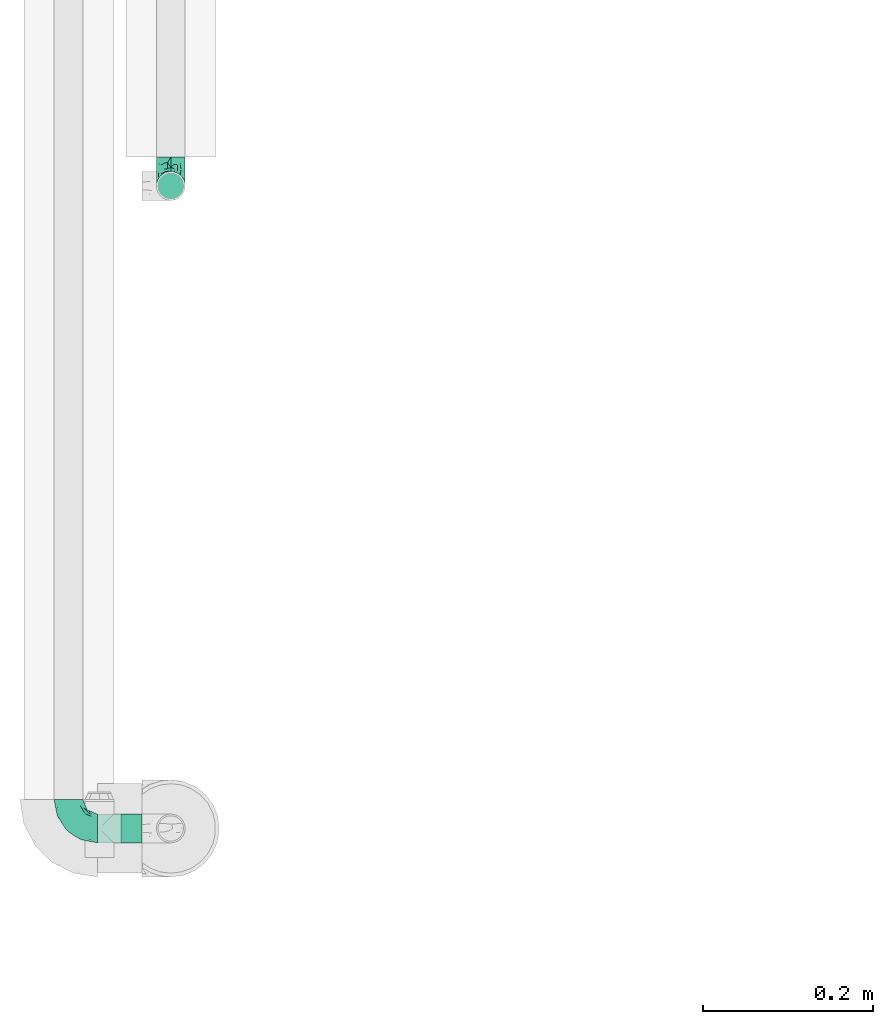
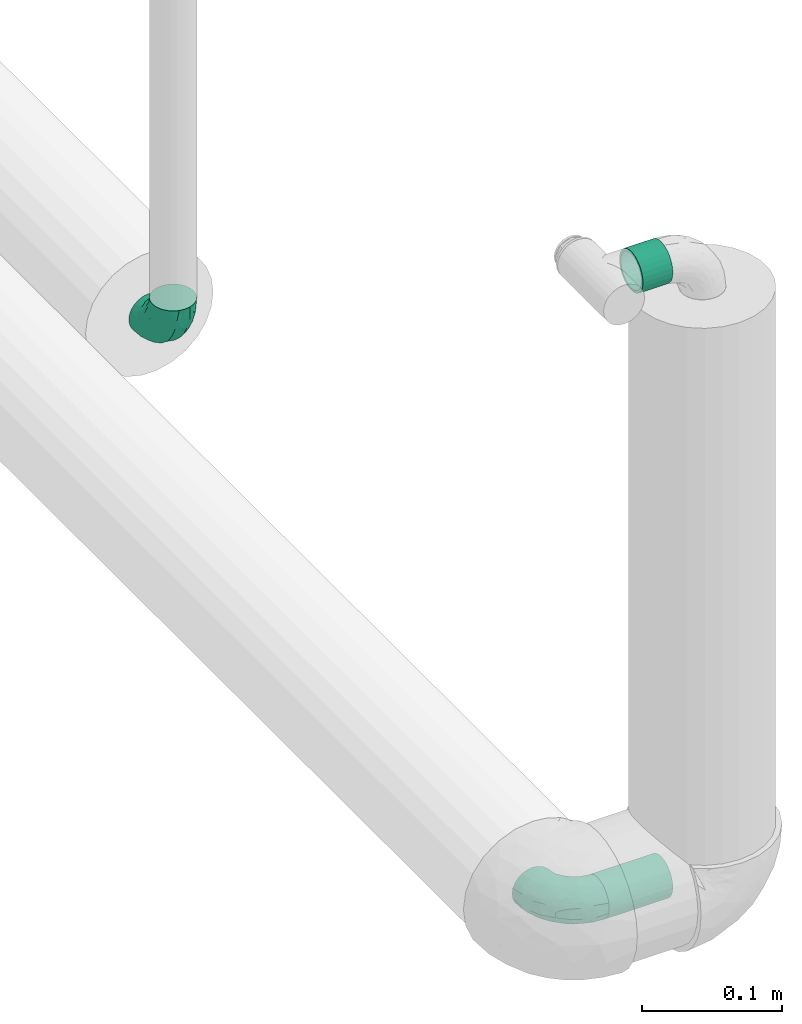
# One storey, part 9 of 17: 2 flow fittings, 2 flow segments.
"""IFC2X3 building model written with IfcOpenShell, lengths in millimetres."""

from ifc_helpers import new_model, entity, si_unit, converted_unit, derived_unit, direction, frame, origin_with_axes, origin_2d_with_axis, place, context, subcontext, project, spatial, hollow_circle, extrude, open_shell, surface_model, source, transform, mapped, type_object, element, save


model = new_model("IFC2X3")

# Units and contexts
model_context = context("Model", 3, precision=0.01, world=frame((0.0, 4.29681676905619e-09, 0.0)), true_north=direction((4.01073788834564e-13, 1.0)))
plan_context = context("Plan", 3, precision=0.01, world=frame((0.0, 4.29681676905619e-09, 0.0)), true_north=direction((4.01073788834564e-13, 1.0)))
body_context = subcontext(model_context, "Body", "Model", "MODEL_VIEW")
ifc_project = project(units=[converted_unit("PLANEANGLEUNIT", "DEGREE", entity("IfcPositiveLengthMeasure", 0.0174532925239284), si_unit("PLANEANGLEUNIT", "RADIAN"), dimensions=[0, 0, 0, 0, 0, 0, 0]), si_unit("AREAUNIT", "SQUARE_METRE"), si_unit("LENGTHUNIT", "METRE", prefix="MILLI"), si_unit("MASSUNIT", "GRAM", prefix="KILO"), si_unit("POWERUNIT", "WATT"), si_unit("PRESSUREUNIT", "PASCAL", prefix="KILO"), si_unit("FORCEUNIT", "NEWTON", prefix="KILO"), si_unit("ELECTRICVOLTAGEUNIT", "VOLT"), si_unit("ELECTRICCURRENTUNIT", "AMPERE"), si_unit("THERMODYNAMICTEMPERATUREUNIT", "DEGREE_CELSIUS"), si_unit("TIMEUNIT", "SECOND"), si_unit("VOLUMEUNIT", "CUBIC_METRE"), derived_unit("LINEARVELOCITYUNIT", [(si_unit("LENGTHUNIT", "METRE"), 1), (si_unit("TIMEUNIT", "SECOND"), -1)]), derived_unit("VOLUMETRICFLOWRATEUNIT", [(si_unit("VOLUMEUNIT", "CUBIC_METRE"), 1), (si_unit("TIMEUNIT", "SECOND"), -1)]), derived_unit("THERMALTRANSMITTANCEUNIT", [(si_unit("POWERUNIT", "WATT"), 1), (si_unit("THERMODYNAMICTEMPERATUREUNIT", "KELVIN"), -1), (si_unit("AREAUNIT", "SQUARE_METRE"), -1)]), derived_unit("SOUNDPRESSUREUNIT", [(si_unit("PRESSUREUNIT", "PASCAL"), 1)])], contexts=[model_context, plan_context])

# Site, building, storey
site_placement = place(None, frame((0.0, -4.29681676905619e-09, 0.0), z_axis=(0.0, 0.0, 1.0), x_axis=(1.0, 0.0, 0.0)))
site = spatial("IfcSite", under=ifc_project, at=site_placement, Name="ENGM", CompositionType="ELEMENT")
building_placement = place(site_placement, frame((0.0, 4.29681676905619e-09, 0.0), z_axis=(0.0, 0.0, 1.0), x_axis=(1.0, 0.0, 0.0)))
building = spatial("IfcBuilding", under=site, at=building_placement, Name="TI", CompositionType="ELEMENT")
storey_placement = place(building_placement, frame((0.0, 0.0, 207370.0), z_axis=(0.0, 0.0, 1.0), x_axis=(1.0, 0.0, 0.0)))
storey = spatial("IfcBuildingStorey", under=building, at=storey_placement, Name="Nivå E", CompositionType="ELEMENT", Elevation=207370.0)

# Flow fittings
pipe_fitting_type = type_object("IfcPipeFittingType", Name="magi_pipe_fe_elbow_short_001", PredefinedType="BEND")
shared_shape_1 = source(origin_with_axes(), body_context, "Body", "SurfaceModel", [
    surface_model("IfcShellBasedSurfaceModel", [(-33.8, 8.45, -14.63583), (-33.8, 4.37404, -16.32415), (-33.8, 11.9501, -11.9501), (-33.8, 16.32415, -4.37404), (-33.8, 14.63583, -8.45), (-33.8, -11.9501, -11.9501), (-33.8, -14.63583, -8.45), (-33.8, -8.45, -14.63583), (-33.8, 0.0, -16.9), (-33.8, -4.37404, -16.32415), (-33.8, -16.9, 0.0), (-33.8, -16.32415, 4.37404), (-33.8, -16.32415, -4.37404), (-33.8, 14.63583, 8.45), (-33.8, 16.32415, 4.37404), (-33.8, 11.9501, 11.9501), (-33.8, 4.37404, 16.32415), (-33.8, 8.45, 14.63583), (-33.8, -8.45, 14.63583), (-33.8, -14.63583, 8.45), (-33.8, -11.9501, 11.9501), (-33.8, -4.37404, 16.32415), (-33.8, 0.0, 16.9), (-33.8, 16.9, 0.0), (-11.9501, 33.8, -11.9501), (0.0, 33.8, -16.9), (-4.37404, 33.8, -16.32415), (-8.45, 33.8, -14.63583), (-14.63583, 33.8, -8.45), (-16.32415, 33.8, -4.37404), (8.45, 33.8, 14.63583), (16.32415, 33.8, -4.37404), (8.45, 33.8, -14.63583), (14.63583, 33.8, -8.45), (11.9501, 33.8, -11.9501), (4.37404, 33.8, -16.32415), (16.32415, 33.8, 4.37404), (16.9, 33.8, 0.0), (-11.9501, 33.8, 11.9501), (-16.32415, 33.8, 4.37404), (-14.63583, 33.8, 8.45), (11.9501, 33.8, 11.9501), (14.63583, 33.8, 8.45), (0.0, 33.8, 16.9), (4.37404, 33.8, 16.32415), (-16.9, 33.8, 0.0), (-24.79389, -13.12945, 9.48721), (-22.19287, -9.75018, 12.59315), (-24.09897, -14.97035, 0.0), (-14.93934, -10.76256, 8.5297), (-22.46095, -14.75051, 5.27077), (14.75051, 22.46094, 5.27077), (11.9251, 13.23888, 4.33236), (13.04069, 14.39795, 0.0), (7.71387, 13.68847, 11.55891), (9.75018, 22.19287, 12.59315), (4.10169, 13.0571, 14.04018), (-24.84007, -6.39063, 15.2048), (-25.81779, -2.23879, 16.61097), (-23.66549, 2.59054, 16.87119), (-26.50418, 14.06512, 11.08152), (-24.21253, 17.66365, 7.72657), (-29.58514, 15.86957, 7.00283), (-6.17382, -7.5455, 0.0), (-13.23888, -11.9251, 4.33236), (-14.39795, -13.04069, 0.0), (-17.81434, 18.87373, 11.97104), (-29.23923, 10.23435, 13.77053), (-1.45439, -2.85688, 7.61475), (-0.28326, 0.34872, 10.09509), (-5.74484, -4.04709, 10.4122), (-4.41137, 11.31918, 16.59407), (-8.39727, 3.10034, 15.7812), (-1.72649, 9.1306, 15.53089), (-17.39909, 24.75344, 7.64977), (-26.19233, 20.0512, 0.0), (-28.14518, 17.29657, 4.25857), (-26.05147, 6.6281, 15.96447), (-5.87354, 16.61944, 16.86968), (-12.51807, 12.51807, 16.48937), (-10.06312, 7.38516, 16.81295), (-3.01882, 3.01882, 13.81718), (-13.0571, -4.10169, 14.04018), (-16.82553, -0.15166, 16.38038), (10.76256, 14.93934, 8.5297), (13.12945, 24.79389, 9.48721), (6.39063, 24.84007, 15.2048), (-13.68847, -7.71387, 11.55891), (-10.67958, 26.17414, 14.008), (-12.78295, 18.26924, 15.06066), (-7.30894, 22.89991, 16.09489), (-13.88562, 22.45231, 12.93244), (-18.04944, 15.16501, 14.04434), (-23.11658, 20.08178, 4.02986), (-21.84989, 21.84989, 0.0), (-8.45, 33.8, 14.63583), (-18.55817, 25.48277, 3.93065), (-4.37404, 33.8, 16.32415), (-6.30846, 29.15138, 15.82987), (-13.95142, 26.94732, 11.03289), (-18.57098, 7.23906, 16.59756), (-16.58335, 4.14122, 16.89279), (-17.96666, 11.46709, 15.63151), (-9.84453, 17.54304, 16.18938), (-23.27207, 11.47201, 14.23154), (0.15166, 16.82553, 16.38038), (-8.0212, -7.54413, 7.93275), (1.00345, -2.19508, 4.57414), (5.13203, 3.01004, 5.90201), (5.24161, 1.7543, 2.53265), (8.70457, 7.04947, 3.99182), (-20.0512, 26.19233, 0.0), (-4.55488, -6.72064, 4.90681), (8.4852, 8.76699, 7.09296), (2.05031, -2.05031, 0.0), (7.5455, 6.17382, 0.0), (-26.75399, 2.1369, -16.845), (-14.61995, 24.73803, -11.27736), (-28.45274, -13.45335, -9.81895), (-26.00469, 6.63555, -15.96645), (-23.06726, 20.04573, -4.26202), (-13.80647, -4.26506, -14.17873), (-14.67501, -0.21081, -16.07388), (-6.7902, -0.2828, -13.8478), (-24.53586, 11.08096, -14.13417), (-26.72048, 14.00837, -11.05776), (10.0967, 24.44989, -12.75976), (5.83237, 21.40218, -15.03047), (6.66249, 28.54238, -15.38093), (-20.38182, 15.48705, -12.74596), (12.53268, 21.23441, -9.15363), (12.54494, 15.67504, -5.54878), (9.7522, 12.89279, -8.66343), (-15.65186, 19.64213, -13.01327), (-12.03528, 20.66498, -14.67665), (-15.61907, 15.61906, -14.83879), (-25.56551, -15.26206, 0.0), (-24.65452, -15.12934, -5.50955), (13.45335, 28.45274, -9.81895), (15.12934, 24.65452, -5.50955), (-7.35442, -8.31014, -5.65563), (-15.67504, -12.54494, -5.54878), (-24.44989, -10.0967, -12.75976), (0.16522, 0.41303, -9.71728), (-5.70658, -5.33066, -8.89288), (-5.13869, -2.37198, -11.53565), (-21.23441, -12.53268, -9.15363), (-24.89911, -2.13088, -16.591), (-28.54238, -6.66249, -15.38093), (-18.44386, -7.71663, -13.26957), (2.13088, 24.89911, -16.591), (-28.64342, 17.44413, -2.89318), (1.70017, -1.28722, -5.09504), (-16.57067, 26.81947, -7.36596), (-17.69055, 27.4263, -3.76405), (-12.89279, -9.7522, -8.66343), (-5.96611, 5.96611, -15.95814), (0.21081, 14.67501, -16.07388), (0.71146, 7.93863, -14.09382), (-20.53709, 20.09345, -8.28985), (-2.1369, 26.75399, -16.845), (-6.89872, 24.58781, -16.02578), (-10.60739, 26.53157, -13.98044), (-21.40218, -5.83237, -15.03047), (2.93192, 5.89627, -11.55917), (6.89393, 12.61842, -11.82233), (5.58056, 5.95325, -8.79455), (-3.99512, 18.61798, -16.89635), (8.31014, 7.35442, -5.65563), (-9.1383, 9.86148, -16.89041), (-9.99983, 16.02119, -16.39699), (-16.68576, 9.78031, -16.34199), (-27.01915, 16.61158, -7.12979), (15.26206, 25.56551, 0.0), (-18.61798, 3.99512, -16.89635), (-19.37495, 27.82495, 0.0), (-12.61842, -6.89393, -11.82233), (-18.84705, 19.14018, -10.96545), (-2.31621, 25.28, 16.85849), (3.84842, 5.86993, 10.70473), (3.49291, 14.42771, -14.76381), (2.23879, 25.81779, 16.61097), (14.97035, 24.09897, 0.0)], [open_shell([[[0, 1, 2]], [[3, 4, 2]], [[5, 6, 7]], [[8, 9, 7]], [[7, 6, 8]], [[10, 11, 12]], [[3, 13, 14]], [[3, 15, 13]], [[16, 17, 15]], [[16, 15, 18]], [[19, 20, 11]], [[20, 12, 11]], [[21, 22, 18]], [[20, 18, 12]], [[18, 22, 16]], [[3, 14, 23]], [[24, 25, 26]], [[24, 26, 27]], [[24, 28, 29]], [[30, 31, 24]], [[32, 33, 34]], [[32, 35, 25]], [[31, 33, 24]], [[31, 36, 37]], [[38, 24, 29]], [[39, 40, 29]], [[40, 38, 29]], [[38, 30, 24]], [[36, 41, 42]], [[36, 31, 41]], [[30, 43, 44]], [[31, 30, 41]], [[39, 29, 45]], [[20, 46, 47]], [[11, 10, 48]], [[49, 46, 50]], [[51, 52, 53]], [[46, 20, 19]], [[11, 50, 19]], [[54, 55, 56]], [[47, 18, 20]], [[47, 57, 18]], [[22, 58, 59]], [[60, 61, 62]], [[63, 64, 65]], [[55, 41, 30]], [[60, 66, 61]], [[17, 67, 15]], [[21, 58, 22]], [[68, 69, 70]], [[71, 72, 73]], [[15, 60, 13]], [[40, 39, 74]], [[75, 23, 76]], [[62, 14, 13]], [[22, 59, 16]], [[16, 77, 17]], [[78, 79, 80]], [[70, 81, 82]], [[57, 82, 83]], [[84, 85, 55]], [[86, 30, 44]], [[42, 51, 36]], [[52, 51, 84]], [[42, 85, 51]], [[87, 82, 47]], [[85, 42, 41]], [[18, 57, 21]], [[64, 50, 65]], [[88, 89, 90]], [[91, 92, 89]], [[75, 93, 94]], [[95, 38, 88]], [[96, 94, 93]], [[66, 74, 61]], [[97, 95, 98]], [[23, 14, 76]], [[88, 90, 98]], [[74, 96, 93]], [[38, 99, 88]], [[91, 88, 99]], [[11, 48, 50]], [[86, 55, 30]], [[55, 86, 56]], [[77, 16, 59]], [[100, 101, 80]], [[102, 77, 100]], [[38, 40, 99]], [[103, 89, 79]], [[90, 103, 78]], [[67, 60, 15]], [[60, 104, 92]], [[82, 57, 47]], [[65, 50, 48]], [[58, 57, 83]], [[87, 47, 49]], [[82, 81, 72]], [[105, 73, 56]], [[105, 56, 86]], [[106, 70, 87]], [[68, 70, 106]], [[64, 49, 50]], [[68, 107, 108]], [[109, 110, 108]], [[54, 84, 55]], [[50, 46, 19]], [[47, 46, 49]], [[55, 85, 41]], [[51, 85, 84]], [[100, 77, 59]], [[67, 77, 104]], [[14, 62, 76]], [[61, 74, 93]], [[45, 111, 96]], [[96, 111, 94]], [[40, 74, 99]], [[66, 99, 74]], [[91, 89, 88]], [[102, 92, 104]], [[100, 80, 79]], [[72, 80, 83]], [[78, 80, 71]], [[57, 58, 21]], [[59, 58, 83]], [[69, 81, 70]], [[100, 59, 101]], [[102, 100, 79]], [[89, 102, 79]], [[77, 102, 104]], [[89, 92, 102]], [[60, 92, 66]], [[59, 83, 101]], [[83, 80, 101]], [[82, 72, 83]], [[73, 72, 81]], [[56, 73, 81]], [[71, 73, 105]], [[78, 71, 105]], [[72, 71, 80]], [[77, 67, 17]], [[60, 67, 104]], [[88, 98, 95]], [[60, 62, 13]], [[76, 61, 93]], [[61, 76, 62]], [[76, 93, 75]], [[64, 63, 112]], [[106, 64, 112]], [[108, 110, 113]], [[114, 112, 63]], [[106, 87, 49]], [[108, 107, 109]], [[115, 53, 52]], [[70, 82, 87]], [[64, 106, 49]], [[68, 106, 112]], [[107, 68, 112]], [[112, 114, 107]], [[109, 107, 114]], [[114, 115, 109]], [[110, 115, 52]], [[115, 110, 109]], [[113, 52, 84]], [[52, 113, 110]], [[113, 84, 54]], [[108, 69, 68]], [[74, 39, 96]], [[45, 96, 39]], [[99, 66, 91]], [[91, 66, 92]], [[78, 103, 79]], [[90, 89, 103]], [[1, 116, 8]], [[28, 24, 117]], [[5, 118, 6]], [[0, 119, 1]], [[94, 120, 75]], [[121, 122, 123]], [[124, 2, 125]], [[126, 127, 128]], [[124, 125, 129]], [[130, 131, 132]], [[133, 134, 135]], [[124, 0, 2]], [[65, 136, 137]], [[130, 138, 139]], [[137, 12, 6]], [[140, 63, 141]], [[142, 5, 7]], [[143, 144, 145]], [[141, 137, 146]], [[147, 9, 8]], [[7, 148, 142]], [[146, 142, 149]], [[148, 7, 9]], [[139, 131, 130]], [[35, 150, 25]], [[23, 75, 151]], [[144, 152, 140]], [[153, 154, 29]], [[141, 155, 140]], [[156, 157, 158]], [[29, 28, 153]], [[117, 159, 153]], [[32, 34, 126]], [[25, 160, 26]], [[26, 160, 161]], [[138, 34, 33]], [[24, 27, 162]], [[120, 154, 159]], [[150, 35, 128]], [[148, 147, 163]], [[119, 0, 124]], [[164, 165, 166]], [[167, 150, 157]], [[26, 161, 27]], [[128, 35, 32]], [[138, 126, 34]], [[163, 147, 122]], [[132, 131, 168]], [[129, 133, 135]], [[2, 4, 125]], [[165, 127, 126]], [[33, 31, 139]], [[167, 169, 170]], [[171, 119, 124]], [[151, 172, 3]], [[131, 53, 115]], [[162, 27, 161]], [[170, 161, 167]], [[133, 162, 134]], [[118, 137, 6]], [[136, 10, 12]], [[31, 37, 173]], [[165, 126, 130]], [[157, 150, 127]], [[160, 150, 167]], [[157, 156, 169]], [[163, 121, 149]], [[118, 142, 146]], [[116, 147, 8]], [[174, 169, 122]], [[174, 122, 147]], [[122, 156, 123]], [[155, 141, 146]], [[136, 12, 137]], [[31, 173, 139]], [[53, 139, 173]], [[172, 125, 4]], [[124, 129, 135]], [[171, 124, 135]], [[116, 119, 174]], [[117, 153, 28]], [[154, 94, 175]], [[161, 170, 134]], [[117, 24, 162]], [[154, 45, 29]], [[75, 120, 151]], [[120, 159, 172]], [[154, 120, 94]], [[132, 166, 165]], [[123, 156, 158]], [[143, 166, 152]], [[144, 140, 155]], [[123, 158, 164]], [[123, 176, 121]], [[125, 172, 159]], [[4, 3, 172]], [[152, 63, 140]], [[65, 137, 141]], [[139, 53, 131]], [[131, 115, 168]], [[119, 116, 1]], [[147, 116, 174]], [[150, 160, 25]], [[161, 160, 167]], [[167, 157, 169]], [[171, 135, 170]], [[122, 169, 156]], [[171, 169, 174]], [[169, 171, 170]], [[119, 171, 174]], [[146, 176, 155]], [[123, 145, 176]], [[176, 144, 155]], [[152, 144, 143]], [[166, 132, 168]], [[165, 130, 132]], [[152, 166, 168]], [[166, 143, 164]], [[164, 143, 145]], [[158, 165, 164]], [[159, 177, 125]], [[177, 117, 133]], [[176, 145, 144]], [[164, 145, 123]], [[177, 133, 129]], [[162, 133, 117]], [[161, 134, 162]], [[170, 135, 134]], [[125, 177, 129]], [[117, 177, 159]], [[154, 153, 159]], [[45, 154, 175]], [[172, 151, 120]], [[23, 151, 3]], [[126, 128, 32]], [[150, 128, 127]], [[139, 138, 33]], [[126, 138, 130]], [[147, 148, 9]], [[142, 148, 163]], [[142, 118, 5]], [[137, 118, 146]], [[152, 115, 114]], [[65, 141, 63]], [[115, 152, 168]], [[152, 114, 63]], [[149, 121, 176]], [[122, 121, 163]], [[146, 149, 176]], [[163, 149, 142]], [[90, 78, 178]], [[56, 81, 179]], [[105, 178, 78]], [[158, 157, 180]], [[8, 6, 1]], [[97, 43, 95]], [[97, 98, 178]], [[178, 43, 97]], [[179, 108, 113]], [[178, 98, 90]], [[56, 179, 54]], [[113, 54, 179]], [[69, 108, 179]], [[81, 69, 179]], [[180, 165, 158]], [[157, 127, 180]], [[165, 180, 127]], [[30, 38, 95]], [[44, 43, 181]], [[6, 2, 1]], [[6, 18, 2]], [[6, 12, 18]], [[2, 18, 3]], [[15, 3, 18]], [[181, 178, 105]], [[181, 86, 44]], [[178, 181, 43]], [[86, 181, 105]], [[51, 53, 182]], [[182, 36, 51]], [[37, 36, 182]], [[25, 24, 32]], [[24, 33, 32]], [[95, 43, 30]]])]),
])
flow_fitting_1_placement = place(storey_placement, frame((585269.96633, 570723.24678, 2946.92527000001), z_axis=(-6.46234853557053e-27, 1.7999999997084e-05, 0.999999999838), x_axis=(1.99999999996e-06, -0.999999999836, 1.7999999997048e-05)))
element("IfcFlowFitting", 1, at=flow_fitting_1_placement, inside=storey, type_object=pipe_fitting_type, Name="magi_pipe_fe_elbow_short_001", context=body_context, shape_type="MappedRepresentation", body=[
    mapped(shared_shape_1, transform((0.0, 0.0, 0.0), scale=1.0)),
])
shared_shape_2 = source(origin_with_axes(), body_context, "Body", "SurfaceModel", [
    surface_model("IfcShellBasedSurfaceModel", [(-33.79946, 4.37404, -16.32415), (-33.79946, 0.0, -16.9), (-33.79946, 11.9501, -11.9501), (-33.79946, 8.45, -14.63583), (-33.79946, 16.32415, -4.37404), (-33.79946, 14.63583, -8.45), (-33.79946, -14.63583, -8.45), (-33.79946, -16.32415, -4.37404), (-33.79946, -8.45, 14.63583), (-33.79946, -11.9501, -11.9501), (-33.79946, -8.45, -14.63583), (-33.79946, -4.37404, -16.32415), (-33.79946, -16.9, 0.0), (-33.79946, -16.32415, 4.37404), (-33.79946, 11.9501, 11.9501), (-33.79946, 16.32415, 4.37404), (-33.79946, 14.63583, 8.45), (-33.79946, 4.37404, 16.32415), (-33.79946, 8.45, 14.63583), (-33.79946, -14.63583, 8.45), (-33.79946, -11.9501, 11.9501), (-33.79946, -4.37404, 16.32415), (-33.79946, 0.0, 16.9), (-33.79946, 16.9, 0.0), (0.00054, 33.79946, -16.9), (-4.3735, 33.79953, -16.32415), (-8.44946, 33.79959, -14.63583), (14.63637, 33.79922, -8.45), (-14.63529, 33.79969, -8.45), (-11.94956, 33.79965, -11.9501), (-14.63529, 33.79969, 8.45), (8.45054, 33.79932, -14.63583), (11.95065, 33.79927, -11.9501), (4.37458, 33.79939, -16.32415), (11.95065, 33.79927, 11.9501), (16.32469, 33.7992, -4.37404), (16.32469, 33.7992, 4.37404), (16.90054, 33.79919, 0.0), (-16.89946, 33.79973, 0.0), (-16.3236, 33.79972, -4.37404), (-16.3236, 33.79972, 4.37404), (8.45054, 33.79932, 14.63583), (-8.44946, 33.79959, 14.63583), (-11.94956, 33.79965, 11.9501), (-4.3735, 33.79953, 16.32415), (14.63637, 33.79922, 8.45), (0.00054, 33.79946, 16.9), (4.37458, 33.79939, 16.32415), (-24.79332, -13.12945, 9.48721), (-22.19231, -9.75017, 12.59315), (-24.09853, -14.97039, 0.0), (-14.93875, -10.76253, 8.52971), (-22.46038, -14.7505, 5.27078), (14.75086, 22.46015, 5.27078), (11.92529, 13.23809, 4.33235), (13.041, 14.39739, 0.0), (7.71408, 13.68782, 11.55892), (9.75053, 22.19215, 12.59315), (4.10197, 13.05667, 14.0402), (-24.83954, -6.39062, 15.20481), (-25.81734, -2.23879, 16.61097), (-23.66501, 2.59054, 16.87119), (-26.50367, 14.06512, 11.08151), (-24.21208, 17.66361, 7.72654), (-29.58466, 15.86957, 7.00282), (-6.17351, -7.54569, 0.0), (-13.23828, -11.92507, 4.33235), (-14.3976, -13.04077, 0.0), (-17.81402, 18.87353, 11.97101), (-6.308, 29.15102, 15.82986), (-2.31581, 25.27955, 16.85849), (-29.23878, 10.23435, 13.77051), (-1.4539, -2.8568, 7.61492), (-0.28309, 0.3485, 10.09524), (-5.74452, -4.04716, 10.41229), (-4.41109, 11.31882, 16.59407), (-8.3969, 3.10031, 15.78123), (-1.72612, 9.13038, 15.5309), (-17.39865, 24.75328, 7.64975), (-26.19177, 20.05117, 0.0), (-28.14467, 17.29656, 4.25858), (-26.05095, 6.62811, 15.96447), (-5.87326, 16.6192, 16.86967), (-12.51774, 12.51794, 16.48935), (-10.06287, 7.38503, 16.81296), (-3.01857, 3.01862, 13.81723), (-13.05674, -4.10176, 14.0402), (-16.82516, -0.1517, 16.38039), (10.76277, 14.93858, 8.52971), (13.12984, 24.7931, 9.48721), (6.39102, 24.83943, 15.20481), (2.2392, 25.81731, 16.61097), (-13.68795, -7.71386, 11.55892), (14.97077, 24.09829, 0.0), (-7.30855, 22.89962, 16.09488), (-10.67916, 26.17381, 14.00799), (-12.78253, 18.26905, 15.06066), (-13.88525, 22.45203, 12.93243), (-18.04902, 15.1649, 14.04434), (-23.1161, 20.08173, 4.02985), (-21.84945, 21.8498, 0.0), (-18.55768, 25.48269, 3.93063), (-13.95099, 26.94701, 11.03288), (-18.57057, 7.239, 16.59756), (-16.58299, 4.1412, 16.89279), (-17.96634, 11.46697, 15.6315), (-9.84416, 17.54283, 16.18937), (0.15197, 16.82515, 16.38039), (-23.27168, 11.47197, 14.23152), (3.84871, 5.86948, 10.70464), (-8.02067, -7.54409, 7.93282), (1.00374, -2.19518, 4.5745), (5.13257, 3.00989, 5.90176), (5.24124, 1.7532, 2.53273), (8.70481, 7.04871, 3.99119), (-20.05075, 26.19209, 0.0), (8.48605, 8.76689, 7.09228), (-4.55425, -6.72053, 4.90695), (2.05057, -2.0506, 0.0), (7.54578, 6.17339, 0.0), (-26.75354, 2.1369, -16.84499), (-14.61951, 24.73785, -11.27734), (-28.45223, -13.45334, -9.81896), (-26.00418, 6.63555, -15.96645), (-23.06679, 20.04568, -4.26201), (-13.80618, -4.26522, -14.17871), (-14.67463, -0.21089, -16.07388), (-6.79008, -0.28298, -13.84788), (-24.53543, 11.08094, -14.13415), (-26.71996, 14.00837, -11.05775), (10.09709, 24.44921, -12.75976), (5.83271, 21.4016, -15.03047), (6.66295, 28.54176, -15.38093), (-20.38141, 15.48695, -12.74596), (12.53303, 21.23372, -9.15365), (12.54518, 15.67429, -5.5488), (9.75234, 12.89203, -8.6635), (-15.65146, 19.642, -13.01325), (-12.03495, 20.66475, -14.67661), (-15.6187, 15.61895, -14.83877), (-25.56497, -15.26207, 0.0), (-24.654, -15.12934, -5.50956), (13.4538, 28.45202, -9.81896), (15.12973, 24.65375, -5.50956), (-7.35384, -8.31012, -5.65562), (-15.6745, -12.54493, -5.5488), (-24.44937, -10.0967, -12.75976), (0.16527, 0.41258, -9.71733), (-5.70616, -5.33082, -8.89278), (-5.13887, -2.37249, -11.53571), (-21.23393, -12.53269, -9.15365), (0.71166, 7.93824, -14.09385), (0.21113, 14.67462, -16.07388), (3.49317, 14.42724, -14.76382), (-24.89859, -2.13088, -16.591), (-28.54187, -6.66249, -15.38093), (-18.44338, -7.71671, -13.26953), (2.13127, 24.89855, -16.591), (-28.64292, 17.44411, -2.89316), (1.70006, -1.28787, -5.09508), (-16.5702, 26.81933, -7.36593), (-17.6901, 27.42606, -3.76404), (-12.89219, -9.75213, -8.6635), (-5.96583, 5.96593, -15.95816), (-20.53659, 20.09343, -8.28982), (-2.13647, 26.75357, -16.84499), (-6.89832, 24.58744, -16.02578), (-10.60697, 26.53122, -13.98043), (-21.40169, -5.83237, -15.03047), (2.93217, 5.89583, -11.55914), (6.89417, 12.61788, -11.82236), (5.58065, 5.95257, -8.79452), (-3.99478, 18.61765, -16.89635), (8.31024, 7.35371, -5.65562), (-9.138, 9.86127, -16.89041), (-9.99954, 16.02087, -16.39699), (-16.6856, 9.78017, -16.34196), (-27.01865, 16.61156, -7.1298), (15.26249, 25.56472, 0.0), (-18.61759, 3.99508, -16.89635), (-19.37445, 27.82476, 0.0), (-12.61799, -6.89396, -11.82236), (-18.84667, 19.14003, -10.96544)], [open_shell([[[0, 1, 2]], [[3, 0, 2]], [[4, 5, 2]], [[6, 2, 1]], [[2, 7, 8]], [[9, 6, 10]], [[1, 11, 10]], [[1, 10, 6]], [[6, 7, 2]], [[12, 13, 7]], [[4, 2, 14]], [[14, 15, 4]], [[16, 15, 14]], [[17, 18, 14]], [[2, 8, 14]], [[17, 14, 8]], [[19, 20, 13]], [[13, 20, 7]], [[21, 22, 8]], [[20, 8, 7]], [[8, 22, 17]], [[23, 4, 15]], [[24, 25, 26]], [[27, 24, 26]], [[27, 26, 28]], [[28, 26, 29]], [[28, 30, 27]], [[31, 27, 32]], [[31, 33, 24]], [[27, 31, 24]], [[27, 34, 35]], [[35, 36, 37]], [[38, 28, 39]], [[38, 40, 30]], [[27, 30, 41]], [[30, 42, 41]], [[42, 30, 43]], [[44, 41, 42]], [[35, 45, 36]], [[34, 45, 35]], [[41, 46, 47]], [[27, 41, 34]], [[44, 46, 41]], [[38, 30, 28]], [[20, 48, 49]], [[13, 12, 50]], [[51, 48, 52]], [[53, 54, 55]], [[48, 20, 19]], [[13, 52, 19]], [[56, 57, 58]], [[49, 8, 20]], [[49, 59, 8]], [[22, 60, 61]], [[62, 63, 64]], [[65, 66, 67]], [[57, 34, 41]], [[62, 68, 63]], [[44, 69, 70]], [[18, 71, 14]], [[21, 60, 22]], [[72, 73, 74]], [[75, 76, 77]], [[14, 62, 16]], [[30, 40, 78]], [[79, 23, 80]], [[64, 15, 16]], [[22, 61, 17]], [[17, 81, 18]], [[82, 83, 84]], [[74, 85, 86]], [[59, 86, 87]], [[88, 89, 57]], [[90, 41, 47]], [[45, 53, 36]], [[47, 46, 91]], [[54, 53, 88]], [[45, 89, 53]], [[92, 86, 49]], [[89, 45, 34]], [[8, 59, 21]], [[53, 55, 93]], [[93, 36, 53]], [[66, 52, 67]], [[94, 82, 70]], [[95, 96, 94]], [[97, 98, 96]], [[79, 99, 100]], [[42, 43, 95]], [[101, 100, 99]], [[68, 78, 63]], [[44, 42, 69]], [[23, 15, 80]], [[95, 94, 69]], [[78, 101, 99]], [[43, 102, 95]], [[70, 46, 44]], [[97, 95, 102]], [[13, 50, 52]], [[90, 57, 41]], [[57, 90, 58]], [[81, 17, 61]], [[103, 104, 84]], [[105, 81, 103]], [[43, 30, 102]], [[106, 96, 83]], [[94, 106, 82]], [[91, 70, 107]], [[71, 62, 14]], [[62, 108, 98]], [[86, 59, 49]], [[67, 52, 50]], [[60, 59, 87]], [[92, 49, 51]], [[86, 85, 76]], [[91, 90, 47]], [[37, 36, 93]], [[107, 77, 58]], [[107, 58, 90]], [[58, 85, 109]], [[110, 74, 92]], [[72, 74, 110]], [[66, 51, 52]], [[72, 111, 112]], [[113, 114, 112]], [[56, 88, 57]], [[52, 48, 19]], [[49, 48, 51]], [[57, 89, 34]], [[53, 89, 88]], [[103, 81, 61]], [[71, 81, 108]], [[15, 64, 80]], [[63, 78, 99]], [[38, 115, 101]], [[101, 115, 100]], [[30, 78, 102]], [[68, 102, 78]], [[97, 96, 95]], [[105, 98, 108]], [[103, 84, 83]], [[107, 70, 82]], [[76, 84, 87]], [[82, 84, 75]], [[70, 91, 46]], [[90, 91, 107]], [[59, 60, 21]], [[61, 60, 87]], [[73, 85, 74]], [[109, 112, 116]], [[103, 61, 104]], [[105, 103, 83]], [[96, 105, 83]], [[81, 105, 108]], [[96, 98, 105]], [[62, 98, 68]], [[61, 87, 104]], [[87, 84, 104]], [[86, 76, 87]], [[77, 76, 85]], [[58, 77, 85]], [[75, 77, 107]], [[82, 75, 107]], [[76, 75, 84]], [[81, 71, 18]], [[62, 71, 108]], [[95, 69, 42]], [[70, 69, 94]], [[62, 64, 16]], [[80, 63, 99]], [[63, 80, 64]], [[80, 99, 79]], [[66, 65, 117]], [[110, 66, 117]], [[112, 114, 116]], [[118, 117, 65]], [[110, 92, 51]], [[112, 111, 113]], [[119, 55, 54]], [[74, 86, 92]], [[58, 109, 56]], [[116, 56, 109]], [[66, 110, 51]], [[72, 110, 117]], [[111, 72, 117]], [[73, 112, 109]], [[117, 118, 111]], [[113, 111, 118]], [[118, 119, 113]], [[114, 119, 54]], [[119, 114, 113]], [[116, 54, 88]], [[54, 116, 114]], [[116, 88, 56]], [[112, 73, 72]], [[85, 73, 109]], [[78, 40, 101]], [[38, 101, 40]], [[102, 68, 97]], [[97, 68, 98]], [[82, 106, 83]], [[94, 96, 106]], [[0, 120, 1]], [[28, 29, 121]], [[9, 122, 6]], [[3, 123, 0]], [[100, 124, 79]], [[125, 126, 127]], [[128, 2, 129]], [[130, 131, 132]], [[128, 129, 133]], [[134, 135, 136]], [[137, 138, 139]], [[128, 3, 2]], [[67, 140, 141]], [[134, 142, 143]], [[141, 7, 6]], [[144, 65, 145]], [[146, 9, 10]], [[147, 148, 149]], [[145, 141, 150]], [[151, 152, 153]], [[154, 11, 1]], [[10, 155, 146]], [[150, 146, 156]], [[155, 10, 11]], [[143, 135, 134]], [[33, 157, 24]], [[23, 79, 158]], [[148, 159, 144]], [[160, 161, 39]], [[145, 162, 144]], [[163, 152, 151]], [[39, 28, 160]], [[121, 164, 160]], [[31, 32, 130]], [[24, 165, 25]], [[25, 165, 166]], [[142, 32, 27]], [[29, 26, 167]], [[124, 161, 164]], [[157, 33, 132]], [[155, 154, 168]], [[123, 3, 128]], [[169, 170, 171]], [[172, 157, 152]], [[25, 166, 26]], [[132, 33, 31]], [[142, 130, 32]], [[168, 154, 126]], [[136, 135, 173]], [[133, 137, 139]], [[2, 5, 129]], [[170, 131, 130]], [[27, 35, 143]], [[172, 174, 175]], [[176, 123, 128]], [[158, 177, 4]], [[135, 55, 119]], [[167, 26, 166]], [[175, 166, 172]], [[137, 167, 138]], [[122, 141, 6]], [[140, 12, 7]], [[35, 37, 178]], [[170, 130, 134]], [[152, 157, 131]], [[165, 157, 172]], [[153, 170, 151]], [[152, 163, 174]], [[168, 125, 156]], [[122, 146, 150]], [[120, 154, 1]], [[179, 174, 126]], [[179, 126, 154]], [[126, 163, 127]], [[162, 145, 150]], [[140, 7, 141]], [[35, 178, 143]], [[55, 143, 178]], [[177, 129, 5]], [[128, 133, 139]], [[176, 128, 139]], [[120, 123, 179]], [[121, 160, 28]], [[161, 100, 180]], [[166, 175, 138]], [[121, 29, 167]], [[161, 38, 39]], [[79, 124, 158]], [[124, 164, 177]], [[161, 124, 100]], [[136, 171, 170]], [[127, 163, 151]], [[147, 171, 159]], [[148, 144, 162]], [[127, 151, 169]], [[127, 181, 125]], [[129, 177, 164]], [[5, 4, 177]], [[159, 65, 144]], [[67, 141, 145]], [[143, 55, 135]], [[135, 119, 173]], [[123, 120, 0]], [[154, 120, 179]], [[157, 165, 24]], [[166, 165, 172]], [[172, 152, 174]], [[176, 139, 175]], [[126, 174, 163]], [[176, 174, 179]], [[174, 176, 175]], [[123, 176, 179]], [[150, 181, 162]], [[127, 149, 181]], [[181, 148, 162]], [[159, 148, 147]], [[171, 136, 173]], [[170, 134, 136]], [[159, 171, 173]], [[171, 147, 169]], [[169, 147, 149]], [[151, 170, 169]], [[164, 182, 129]], [[182, 121, 137]], [[181, 149, 148]], [[169, 149, 127]], [[182, 137, 133]], [[167, 137, 121]], [[166, 138, 167]], [[175, 139, 138]], [[129, 182, 133]], [[121, 182, 164]], [[161, 160, 164]], [[38, 161, 180]], [[177, 158, 124]], [[23, 158, 4]], [[130, 132, 31]], [[157, 132, 131]], [[143, 142, 27]], [[130, 142, 134]], [[154, 155, 11]], [[146, 155, 168]], [[146, 122, 9]], [[141, 122, 150]], [[152, 131, 153]], [[159, 119, 118]], [[67, 145, 65]], [[170, 153, 131]], [[119, 159, 173]], [[159, 118, 65]], [[156, 125, 181]], [[126, 125, 168]], [[150, 156, 181]], [[168, 156, 146]]])]),
])
flow_fitting_2_placement = place(storey_placement, frame((585389.97776, 571476.94106, 2946.91222), z_axis=(1.0, 0.0, 0.0), x_axis=(0.0, 0.0, -1.0)))
element("IfcFlowFitting", 2, at=flow_fitting_2_placement, inside=storey, type_object=pipe_fitting_type, Name="magi_pipe_fe_elbow_short_001", context=body_context, shape_type="MappedRepresentation", body=[
    mapped(shared_shape_2, transform((0.0, 0.0, 0.0), scale=1.0)),
])

# Flow segments
pipe_segment_type = type_object("IfcPipeSegmentType", Name="Stålrør normaltykke", PredefinedType="RIGIDSEGMENT")
shared_shape_3 = source(origin_with_axes(), body_context, "Body", "SweptSolid", [
    extrude(hollow_circle(Radius=16.9, WallThickness=2.0, at=origin_2d_with_axis()), frame((0.0, 0.0, 0.0), z_axis=(1.0, 0.0, 0.0), x_axis=(0.0, 1.0, 0.0)), (0.0, 0.0, 1.0), 52.4),
])
flow_segment_1_placement = place(storey_placement, frame((585303.76633, 570723.24678, 2946.92527000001), z_axis=(0.0, 0.0, 1.0), x_axis=(1.0, 0.0, 0.0)))
element("IfcFlowSegment", 3, at=flow_segment_1_placement, inside=storey, type_object=pipe_segment_type, Name="Stålrør normaltykke", context=body_context, shape_type="MappedRepresentation", body=[
    mapped(shared_shape_3, transform((0.0, 0.0, 0.0), scale=1.0)),
])
shared_shape_4 = source(origin_with_axes(), body_context, "Body", "SweptSolid", [
    extrude(hollow_circle(Radius=16.9, WallThickness=2.0, at=origin_2d_with_axis()), frame((0.0, 0.0, 0.0), z_axis=(1.0, 0.0, 0.0), x_axis=(0.0, 1.0, 0.0)), (0.0, 0.0, 1.0), 24.6),
])
flow_segment_2_placement = place(storey_placement, frame((585331.52776, 570723.24678, 3481.39999999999), z_axis=(0.0, 0.0, 1.0), x_axis=(1.0, 0.0, 0.0)))
element("IfcFlowSegment", 4, at=flow_segment_2_placement, inside=storey, type_object=pipe_segment_type, Name="Stålrør normaltykke", context=body_context, shape_type="MappedRepresentation", body=[
    mapped(shared_shape_4, transform((0.0, 0.0, 0.0), scale=1.0)),
])

save(model, "model.ifc")
